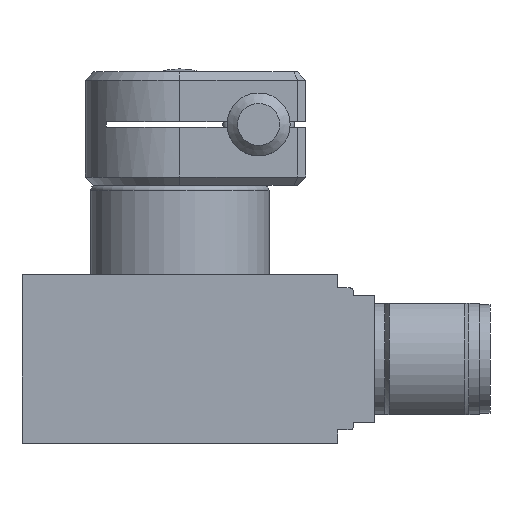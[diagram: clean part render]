
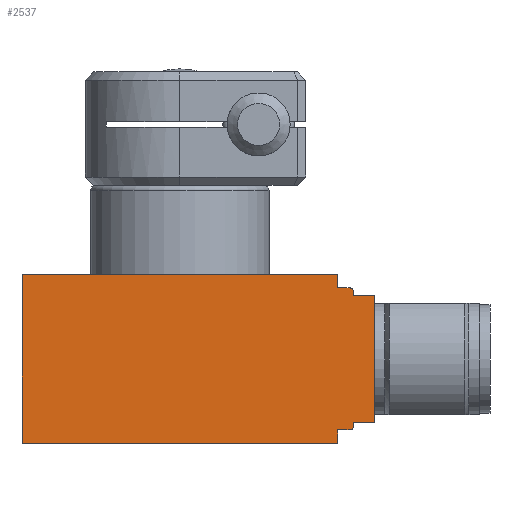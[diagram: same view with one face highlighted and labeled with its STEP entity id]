
A CAD part, front view. The second image highlights one B-rep face of the part: STEP entity #2537.
In plain terms, the highlighted planar face has unit normal (0, -1, 0) as drawn and (0, 0, -1) by its records, which use the part's own axes.
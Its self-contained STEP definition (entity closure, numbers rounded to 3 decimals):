
#46=LINE('',#3767,#276);
#54=LINE('',#3782,#284);
#86=LINE('',#3885,#316);
#102=LINE('',#3930,#332);
#118=LINE('',#3963,#348);
#119=LINE('',#3966,#349);
#120=LINE('',#3970,#350);
#121=LINE('',#3972,#351);
#122=LINE('',#3974,#352);
#123=LINE('',#3976,#353);
#124=LINE('',#3978,#354);
#125=LINE('',#3981,#355);
#276=VECTOR('',#2995,1.25);
#284=VECTOR('',#3003,1.25);
#316=VECTOR('',#3107,30.);
#332=VECTOR('',#3151,16.);
#348=VECTOR('',#3189,30.);
#349=VECTOR('',#3192,1.2);
#350=VECTOR('',#3195,0.45);
#351=VECTOR('',#3196,2.);
#352=VECTOR('',#3197,12.);
#353=VECTOR('',#3198,2.);
#354=VECTOR('',#3199,0.45);
#355=VECTOR('',#3202,1.2);
#536=PLANE('',#2743);
#693=FACE_OUTER_BOUND('',#863,.T.);
#863=EDGE_LOOP('',(#1926,#1927,#1928,#1929,#1930,#1931,#1932,#1933,#1934,
#1935,#1936,#1937,#1938,#1939));
#1031=CIRCLE('',#2744,0.3);
#1032=CIRCLE('',#2745,0.3);
#1117=VERTEX_POINT('',#3759);
#1120=VERTEX_POINT('',#3764);
#1121=VERTEX_POINT('',#3766);
#1128=VERTEX_POINT('',#3780);
#1163=VERTEX_POINT('',#3883);
#1178=VERTEX_POINT('',#3928);
#1185=VERTEX_POINT('',#3965);
#1186=VERTEX_POINT('',#3967);
#1187=VERTEX_POINT('',#3969);
#1188=VERTEX_POINT('',#3971);
#1189=VERTEX_POINT('',#3973);
#1190=VERTEX_POINT('',#3975);
#1191=VERTEX_POINT('',#3977);
#1192=VERTEX_POINT('',#3979);
#1364=EDGE_CURVE('',#1121,#1120,#46,.T.);
#1372=EDGE_CURVE('',#1117,#1128,#54,.T.);
#1421=EDGE_CURVE('',#1128,#1163,#86,.T.);
#1443=EDGE_CURVE('',#1178,#1163,#102,.T.);
#1460=EDGE_CURVE('',#1178,#1121,#118,.T.);
#1461=EDGE_CURVE('',#1120,#1185,#119,.T.);
#1462=EDGE_CURVE('',#1185,#1186,#1031,.T.);
#1463=EDGE_CURVE('',#1186,#1187,#120,.T.);
#1464=EDGE_CURVE('',#1187,#1188,#121,.T.);
#1465=EDGE_CURVE('',#1189,#1188,#122,.T.);
#1466=EDGE_CURVE('',#1190,#1189,#123,.T.);
#1467=EDGE_CURVE('',#1191,#1190,#124,.T.);
#1468=EDGE_CURVE('',#1192,#1191,#1032,.T.);
#1469=EDGE_CURVE('',#1117,#1192,#125,.T.);
#1926=ORIENTED_EDGE('',*,*,#1461,.T.);
#1927=ORIENTED_EDGE('',*,*,#1462,.T.);
#1928=ORIENTED_EDGE('',*,*,#1463,.T.);
#1929=ORIENTED_EDGE('',*,*,#1464,.T.);
#1930=ORIENTED_EDGE('',*,*,#1465,.F.);
#1931=ORIENTED_EDGE('',*,*,#1466,.F.);
#1932=ORIENTED_EDGE('',*,*,#1467,.F.);
#1933=ORIENTED_EDGE('',*,*,#1468,.F.);
#1934=ORIENTED_EDGE('',*,*,#1469,.F.);
#1935=ORIENTED_EDGE('',*,*,#1372,.T.);
#1936=ORIENTED_EDGE('',*,*,#1421,.T.);
#1937=ORIENTED_EDGE('',*,*,#1443,.F.);
#1938=ORIENTED_EDGE('',*,*,#1460,.T.);
#1939=ORIENTED_EDGE('',*,*,#1364,.T.);
#2537=ADVANCED_FACE('',(#693),#536,.F.);
#2743=AXIS2_PLACEMENT_3D('',#3964,#3190,#3191);
#2744=AXIS2_PLACEMENT_3D('',#3968,#3193,#3194);
#2745=AXIS2_PLACEMENT_3D('',#3980,#3200,#3201);
#2995=DIRECTION('',(0.,-1.,0.));
#3003=DIRECTION('',(0.,-1.,0.));
#3107=DIRECTION('',(-1.,0.,0.));
#3151=DIRECTION('',(0.,-1.,0.));
#3189=DIRECTION('',(1.,0.,0.));
#3190=DIRECTION('center_axis',(0.,0.,1.));
#3191=DIRECTION('ref_axis',(1.,0.,0.));
#3192=DIRECTION('',(1.,0.,0.));
#3193=DIRECTION('center_axis',(0.,0.,-1.));
#3194=DIRECTION('ref_axis',(0.707,0.707,0.));
#3195=DIRECTION('',(0.,-1.,0.));
#3196=DIRECTION('',(1.,0.,0.));
#3197=DIRECTION('',(0.,1.,0.));
#3198=DIRECTION('',(1.,0.,0.));
#3199=DIRECTION('',(0.,1.,0.));
#3200=DIRECTION('center_axis',(0.,0.,1.));
#3201=DIRECTION('ref_axis',(0.707,-0.707,0.));
#3202=DIRECTION('',(1.,0.,0.));
#3759=CARTESIAN_POINT('',(15.,-14.75,-43.));
#3764=CARTESIAN_POINT('',(15.,-1.25,-43.));
#3766=CARTESIAN_POINT('',(15.,0.,-43.));
#3767=CARTESIAN_POINT('',(15.,0.,-43.));
#3780=CARTESIAN_POINT('',(15.,-16.,-43.));
#3782=CARTESIAN_POINT('',(15.,-14.75,-43.));
#3883=CARTESIAN_POINT('',(-15.,-16.,-43.));
#3885=CARTESIAN_POINT('',(15.,-16.,-43.));
#3928=CARTESIAN_POINT('',(-15.,0.,-43.));
#3930=CARTESIAN_POINT('',(-15.,0.,-43.));
#3963=CARTESIAN_POINT('',(-15.,0.,-43.));
#3964=CARTESIAN_POINT('Origin',(1.75,-16.,-43.));
#3965=CARTESIAN_POINT('',(16.2,-1.25,-43.));
#3966=CARTESIAN_POINT('',(15.,-1.25,-43.));
#3967=CARTESIAN_POINT('',(16.5,-1.55,-43.));
#3968=CARTESIAN_POINT('Origin',(16.2,-1.55,-43.));
#3969=CARTESIAN_POINT('',(16.5,-2.,-43.));
#3970=CARTESIAN_POINT('',(16.5,-1.55,-43.));
#3971=CARTESIAN_POINT('',(18.5,-2.,-43.));
#3972=CARTESIAN_POINT('',(16.5,-2.,-43.));
#3973=CARTESIAN_POINT('',(18.5,-14.,-43.));
#3974=CARTESIAN_POINT('',(18.5,-14.,-43.));
#3975=CARTESIAN_POINT('',(16.5,-14.,-43.));
#3976=CARTESIAN_POINT('',(16.5,-14.,-43.));
#3977=CARTESIAN_POINT('',(16.5,-14.45,-43.));
#3978=CARTESIAN_POINT('',(16.5,-14.45,-43.));
#3979=CARTESIAN_POINT('',(16.2,-14.75,-43.));
#3980=CARTESIAN_POINT('Origin',(16.2,-14.45,-43.));
#3981=CARTESIAN_POINT('',(15.,-14.75,-43.));
